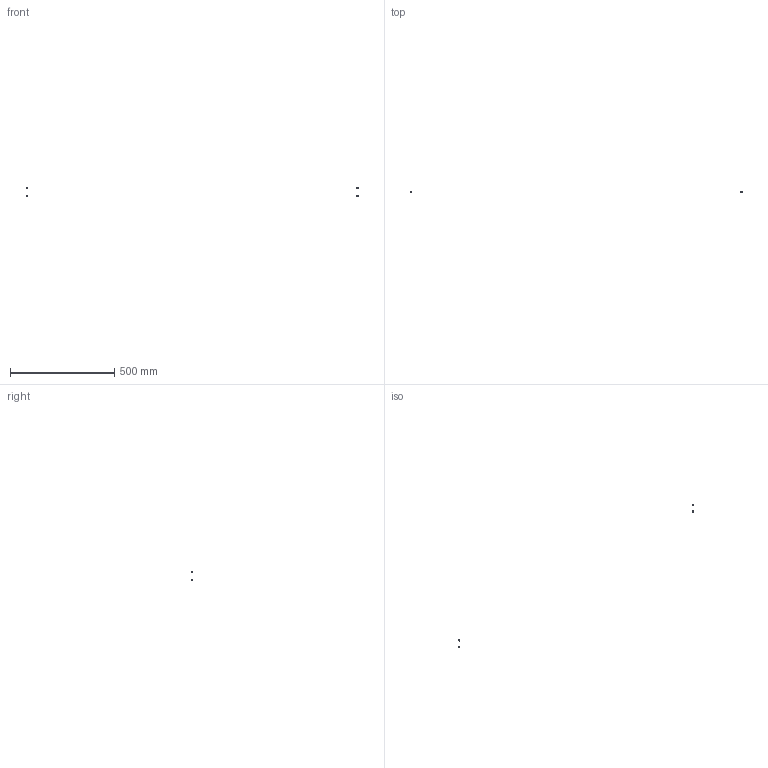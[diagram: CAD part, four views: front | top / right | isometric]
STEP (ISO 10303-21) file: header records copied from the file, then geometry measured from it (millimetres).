
FILE_DESCRIPTION(/* description */ (''),/* implementation_level */ '2;1');
FILE_NAME(/* name */ '3.frame-top#3.3#LBNR3',/* time_stamp */ '2014-12-01T20:12:11+01:00',/* author */ (''),/* organization */ (''),/* preprocessor_version */ 'ST-DEVELOPER v14',/* originating_system */ '',/* authorisation */ '');
FILE_SCHEMA (('AUTOMOTIVE_DESIGN'));
Length unit declared in the file: millimetre
Products named in the file (2): Document; nut DIN934-like, M3
Assembly tree (2 placements, depth 2):
  Document
    nut DIN934-like, M3  x2
Bounding box: 1595.5 x 2.4 x 43.35 mm (x, y, z)
Volume: 202.7 mm3; surface area: 414.7 mm2
Topology: 4 solids, 4 shells, 88 faces, 192 edges, 112 vertices
Faces by surface type: bspline 56, plane 32
Entity records: 4062 total; most frequent: CARTESIAN_POINT 2177, ORIENTED_EDGE 288, PCURVE 288, DEFINITIONAL_REPRESENTATION 288, B_SPLINE_CURVE_WITH_KNOTS 276, SURFACE_CURVE 144, EDGE_CURVE 144, VERTEX_POINT 84
